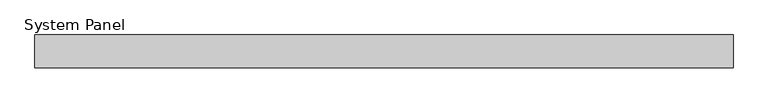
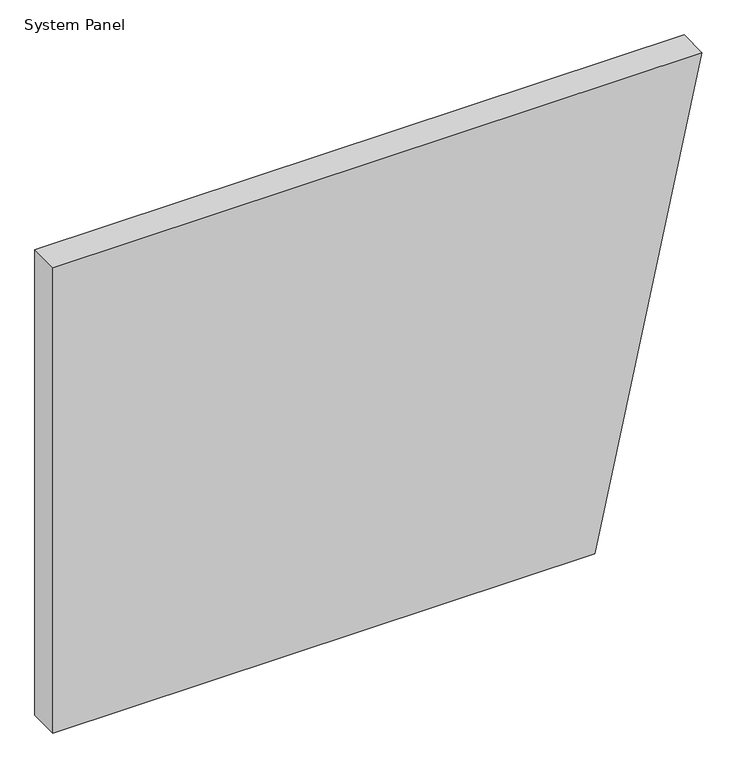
"""IFC4 building model written with IfcOpenShell, lengths in millimetres: plate geometry, System Panel : Equitilt 75mm Horizontal - Plain RHEA - MW."""

import ifcopenshell
import ifcopenshell.guid

model = None  # the IFC model being written
_history = None  # IfcOwnerHistory: only IFC2X3 demands one
_inside = {}  # id of a spatial element -> (the spatial element, [elements in it])
_under = {}  # id of a project, library or spatial element -> (it, [spatial elements below it])
_declared = {}  # id of a project -> (the project, [libraries it declares])
_typed = {}  # id of a type object -> (the type object, [elements of that type])
_made_of = {}  # id of a material, layer set ... -> (it, [elements and type objects made of it])


def new_model(schema):
    """Start an empty IFC model of exactly this schema.

    Asked for "IFC4X3", IfcOpenShell would pick the latest addendum, in which some entities
    have other attributes; the version numbers below select the first issue.
    IFC2X3 requires an IfcOwnerHistory on every rooted entity: one is made here for all.
    """
    global model, _history
    if schema == "IFC4X3":
        model = ifcopenshell.file(schema_version=(4, 3, 0, 0))
    else:
        model = ifcopenshell.file(schema=schema)
    _inside.clear()
    _under.clear()
    _declared.clear()
    _typed.clear()
    _made_of.clear()
    _history = None
    if model.schema == "IFC2X3":
        org = make("IfcOrganization", Name="unknown")
        user = make(
            "IfcPersonAndOrganization",
            ThePerson=make("IfcPerson", FamilyName="unknown"),
            TheOrganization=org,
        )
        app = make(
            "IfcApplication",
            ApplicationDeveloper=org,
            Version="unknown",
            ApplicationFullName="unknown",
            ApplicationIdentifier="unknown",
        )
        _history = make(
            "IfcOwnerHistory",
            OwningUser=user,
            OwningApplication=app,
            ChangeAction="ADDED",
            CreationDate=0,
        )
    return model


def make(cls, **values):
    """One entity of the class cls with the attributes given. An attribute that is None is left unset."""
    return model.create_entity(
        cls, **{name: value for name, value in values.items() if value is not None}
    )


def rooted(cls, **values):
    """An entity with a GlobalId (a new one), such as an element, a storey or a relation."""
    return make(cls, GlobalId=ifcopenshell.guid.new(), OwnerHistory=_history, **values)


def si_unit(unit_type, name, prefix=None):
    """IfcSIUnit, for example si_unit("LENGTHUNIT", "METRE", prefix="MILLI")."""
    return make("IfcSIUnit", UnitType=unit_type, Prefix=prefix, Name=name)


def assignment(units):
    """IfcUnitAssignment: the units of a project."""
    return None if units is None else make("IfcUnitAssignment", Units=units)


def point(xyz):
    """IfcCartesianPoint."""
    return None if xyz is None else make("IfcCartesianPoint", Coordinates=xyz)


def direction(xyz):
    """IfcDirection."""
    return None if xyz is None else make("IfcDirection", DirectionRatios=xyz)


def frame(location, z_axis=None, x_axis=None):
    """IfcAxis2Placement3D, a coordinate frame: its origin and axes. An axis left out is left unset."""
    return make(
        "IfcAxis2Placement3D",
        Location=point(location),
        Axis=direction(z_axis),
        RefDirection=direction(x_axis),
    )


def origin():
    """The frame at (0, 0, 0) with its axes left unset."""
    return frame((0.0, 0.0, 0.0))


def place(relative_to, where):
    """IfcLocalPlacement: puts the frame where relative to a parent placement (None: the world)."""
    return make(
        "IfcLocalPlacement", PlacementRelTo=relative_to, RelativePlacement=where
    )


def context(
    kind, dimensions, precision=None, world=None, true_north=None, identifier=None
):
    """IfcGeometricRepresentationContext, for example the 3D "Model" context."""
    return make(
        "IfcGeometricRepresentationContext",
        ContextIdentifier=identifier,
        ContextType=kind,
        CoordinateSpaceDimension=dimensions,
        Precision=precision,
        WorldCoordinateSystem=world,
        TrueNorth=true_north,
    )


def project(units=None, contexts=None):
    """IfcProject with its units and contexts."""
    return rooted(
        "IfcProject",
        Name="project",
        RepresentationContexts=contexts,
        UnitsInContext=assignment(units),
    )


def spatial(cls, under=None, at=None, **own):
    """A site, building, storey or space (cls), placed at a placement, below another one or the project."""
    s = rooted(cls, ObjectPlacement=at, **own)
    if under is not None:
        _under.setdefault(under.id(), (under, []))[1].append(s)
    return s


def polyline(points):
    """IfcPolyline through the points."""
    return make("IfcPolyline", Points=[point(p) for p in points])


def outline(outer, holes=None, kind="AREA"):
    """IfcArbitraryClosedProfileDef: a profile drawn as a closed curve; with holes, ...WithVoids."""
    if holes is None:
        return make("IfcArbitraryClosedProfileDef", ProfileType=kind, OuterCurve=outer)
    return make(
        "IfcArbitraryProfileDefWithVoids",
        ProfileType=kind,
        OuterCurve=outer,
        InnerCurves=holes,
    )


def extrude(swept, where, along, depth):
    """IfcExtrudedAreaSolid: the profile swept, set in the frame where, extruded along a direction by depth."""
    return make(
        "IfcExtrudedAreaSolid",
        SweptArea=swept,
        Position=where,
        ExtrudedDirection=direction(along),
        Depth=depth,
    )


def shape(context_of_items, identifier, shape_type, items):
    """IfcShapeRepresentation: the items that make up one representation, for example the "Body"."""
    return make(
        "IfcShapeRepresentation",
        ContextOfItems=context_of_items,
        RepresentationIdentifier=identifier,
        RepresentationType=shape_type,
        Items=items,
    )


def source(mapping_origin, context_of_items, identifier, shape_type, items):
    """IfcRepresentationMap: a shape defined once, which mapped items show again and again."""
    return make(
        "IfcRepresentationMap",
        MappingOrigin=mapping_origin,
        MappedRepresentation=shape(context_of_items, identifier, shape_type, items),
    )


def transform(
    local_origin,
    x_axis=None,
    y_axis=None,
    z_axis=None,
    scale=None,
    scale2=None,
    scale3=None,
    uniform=True,
):
    """IfcCartesianTransformationOperator3D, or its non-uniform kind. x_axis, y_axis, z_axis: its Axis1, 2, 3."""
    if uniform:
        return make(
            "IfcCartesianTransformationOperator3D",
            Axis1=direction(x_axis),
            Axis2=direction(y_axis),
            LocalOrigin=point(local_origin),
            Scale=scale,
            Axis3=direction(z_axis),
        )
    return make(
        "IfcCartesianTransformationOperator3DnonUniform",
        Axis1=direction(x_axis),
        Axis2=direction(y_axis),
        LocalOrigin=point(local_origin),
        Scale=scale,
        Axis3=direction(z_axis),
        Scale2=scale2,
        Scale3=scale3,
    )


def mapped(mapping_source, mapping_target):
    """IfcMappedItem: shows the shape of a source again, moved by a transform."""
    return make(
        "IfcMappedItem", MappingSource=mapping_source, MappingTarget=mapping_target
    )


def made_of(thing, what):
    """Note that an element or type object is made of a material, layer set ...; save() writes the relation."""
    if what is not None:
        _made_of.setdefault(what.id(), (what, []))[1].append(thing)
    return thing


def element(
    cls,
    number,
    at=None,
    inside=None,
    cuts=None,
    type_object=None,
    material=None,
    context=None,
    identifier="Body",
    shape_type=None,
    held_by="IfcProductDefinitionShape",
    body=None,
    shapes=None,
    **own,
):
    """One element of the class cls, such as IfcWall. Its Tag is "e" and its number.

    at: its placement. inside: the storey or other place that contains it. cuts: it is an
    opening in that element (IfcRelVoidsElement). A single representation is given by context,
    identifier, shape_type and body (its items); several are given by shapes. held_by: the class
    of the entity that holds the representations. save() writes the other relations.
    """
    e = rooted(cls, Tag="e%d" % number, ObjectPlacement=at, **own)
    if body is not None:
        shapes = [shape(context, identifier, shape_type, body)]
    if shapes is not None:
        e.Representation = make(held_by, Representations=shapes)
    if inside is not None:
        _inside.setdefault(inside.id(), (inside, []))[1].append(e)
    if cuts is not None:
        rooted(
            "IfcRelVoidsElement", RelatingBuildingElement=cuts, RelatedOpeningElement=e
        )
    if type_object is not None:
        _typed.setdefault(type_object.id(), (type_object, []))[1].append(e)
    return made_of(e, material)


def aggregate(whole, parts):
    """IfcRelAggregates: a whole, such as a stair, and the parts it consists of."""
    return rooted("IfcRelAggregates", RelatingObject=whole, RelatedObjects=parts)


def save(model, path):
    """Write the relations noted so far, then the file.

    IfcRelAggregates (storeys below a building ...), IfcRelContainedInSpatialStructure (elements
    in a storey), IfcRelDefinesByType, IfcRelAssociatesMaterial and IfcRelDeclares: one each for
    every whole, place, type object, material and project.
    """
    for whole, parts in _under.values():
        aggregate(whole, parts)
    for where, things in _inside.values():
        rooted(
            "IfcRelContainedInSpatialStructure",
            RelatedElements=things,
            RelatingStructure=where,
        )
    for kind, things in _typed.values():
        rooted("IfcRelDefinesByType", RelatedObjects=things, RelatingType=kind)
    for what, things in _made_of.values():
        rooted("IfcRelAssociatesMaterial", RelatedObjects=things, RelatingMaterial=what)
    for by, libraries in _declared.values():
        rooted("IfcRelDeclares", RelatingContext=by, RelatedDefinitions=libraries)
    model.write(path)


def system_panel_a9172ad6(model_context):
    return source(origin(), model_context, "Body", "SweptSolid", [
        extrude(outline(polyline([(0.0, -791.3074928), (0.0, 530.4358309), (1200.0, 791.3074928), (1200.0, -791.3074928), (0.0, -791.3074928)])), frame((0.0, -75.0, 0.0), z_axis=(0.0, 1.0, 0.0), x_axis=(0.0, 0.0, 1.0)), (0.0, 0.0, 1.0), 75.0),
    ])


if __name__ == "__main__":
    model = new_model("IFC4")
    model_context = context("Model", 3, world=origin())
    ifc_project = project(units=[si_unit("LENGTHUNIT", "METRE", prefix="MILLI")], contexts=[model_context])
    site = spatial("IfcSite", under=ifc_project)
    building = spatial("IfcBuilding", under=site)
    placement = place(None, origin())
    system_panel_shape = system_panel_a9172ad6(model_context)
    element("IfcPlate", 1, ObjectType="System Panel : Equitilt 75mm Horizontal - Plain RHEA - MW", at=placement, inside=building, context=model_context, shape_type="MappedRepresentation", body=[
        mapped(system_panel_shape, transform((0.0, 0.0, 0.0), x_axis=(1.0, 0.0, 0.0), y_axis=(0.0, 1.0, 0.0), z_axis=(0.0, 0.0, 1.0))),
    ])
    save(model, "model.ifc")
